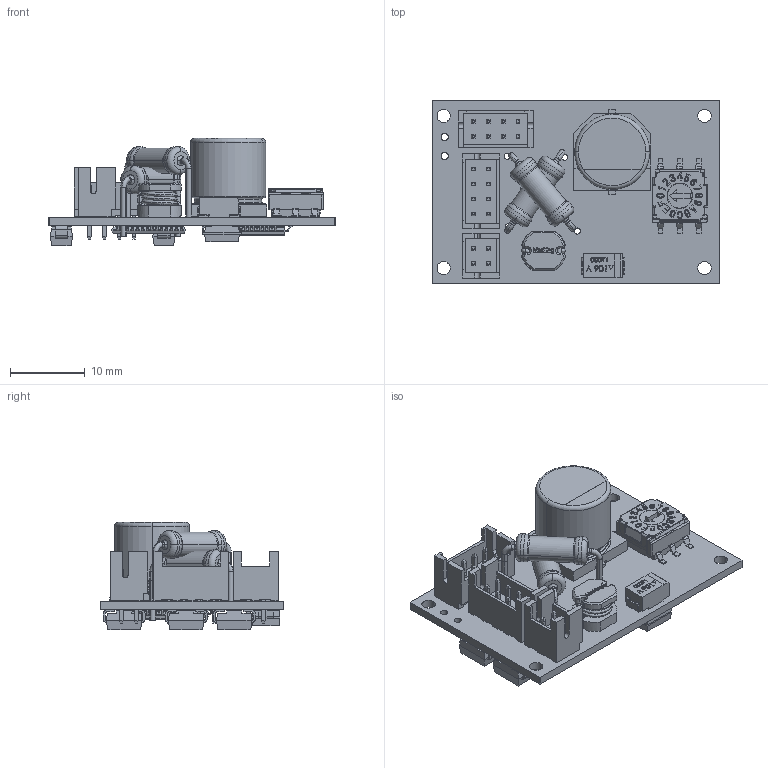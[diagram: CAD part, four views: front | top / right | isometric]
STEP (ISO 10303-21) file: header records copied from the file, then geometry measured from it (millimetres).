
FILE_DESCRIPTION (( 'STEP AP214' ), '1' );
FILE_NAME ('EZ10EN.step', '2016-06-22T21:28:14', ( '' ), ( '' ), 'SwSTEP 2.0', 'SolidWorks 2015', '' );
FILE_SCHEMA (( 'AUTOMOTIVE_DESIGN' ));
Length unit declared in the file: millimetre
Products named in the file (43): B11; DF11-4DP-2DSA__X__8A__S__H__X__97__S___; B14; B10; DF11-8DP-2DSA__X__8A__S__H__X__97__S___; B9; B13; B8; B12; B7; _SH-700-Without_knob_(Minus_slot); B6; _SH-7050B_body; B5; B4; B3; B2; B1; Board; EZ10EN; Assem8^EZ10EN; DF11-8DP-2DSA__X__8A__S__H__X__97__S____2; Free-Models; B16; B15
Assembly tree (24 placements, depth 5):
  B11
  DF11-4DP-2DSA__X__8A__S__H__X__97__S___
  B10
  B9
  B8
Bounding box: 38.25 x 24.54 x 14.32 mm (x, y, z)
Volume: 3006.5 mm3; surface area: 5699.1 mm2
Topology: 21 solids, 21 shells, 4037 faces, 10941 edges, 7040 vertices
Faces by surface type: plane 3130, cylinder 749, bspline 89, torus 52, cone 17
Entity records: 179477 total; most frequent: CARTESIAN_POINT 31657, ORIENTED_EDGE 21882, DIRECTION 20272, EDGE_CURVE 10941, VECTOR 9094, LINE 9094, VERTEX_POINT 7040, AXIS2_PLACEMENT_3D 5589
